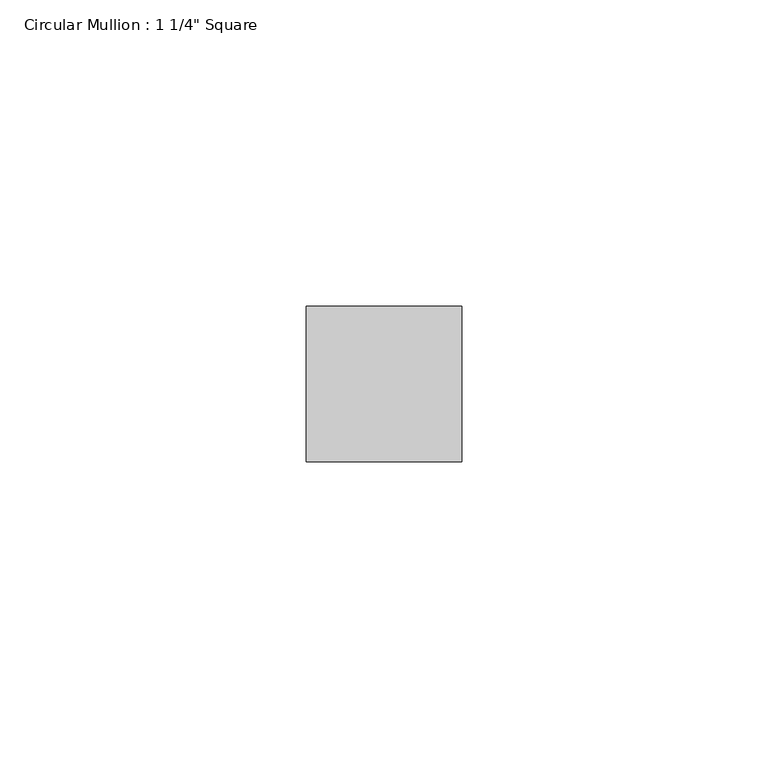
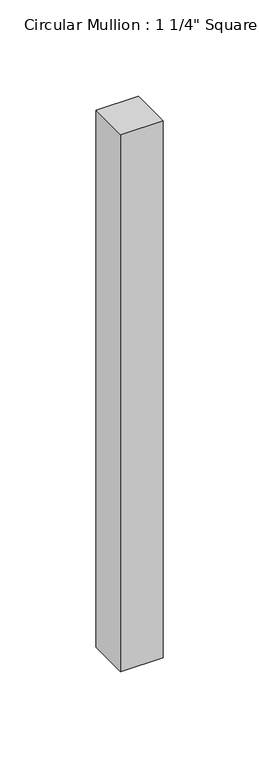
"""IFC4 building model written with IfcOpenShell, lengths in millimetres: member geometry."""

from ifc_helpers import new_model, si_unit, frame, origin, place, context, project, spatial, polyline, outline, extrude, source, transform, mapped, element, save


def member_a1b9a255(model_context):
    return source(origin(), model_context, "Body", "SweptSolid", [
        extrude(outline(polyline([(0.0, 12.7), (0.0, -12.7), (-25.4, -12.7), (-25.4, 12.7), (0.0, 12.7)])), frame((0.0, 0.0, -340.5123997), z_axis=(0.0, 0.0, 1.0), x_axis=(1.0, 0.0, 0.0)), (0.0, 0.0, 1.0), 340.5123997),
    ])


if __name__ == "__main__":
    model = new_model("IFC4")
    model_context = context("Model", 3, world=origin())
    ifc_project = project(units=[si_unit("LENGTHUNIT", "METRE", prefix="MILLI")], contexts=[model_context])
    site = spatial("IfcSite", under=ifc_project)
    building = spatial("IfcBuilding", under=site)
    placement = place(None, origin())
    member_shape = member_a1b9a255(model_context)
    element("IfcMember", 1, ObjectType="Circular Mullion : 1 1/4\" Square", at=placement, inside=building, context=model_context, shape_type="MappedRepresentation", body=[
        mapped(member_shape, transform((0.0, 0.0, 0.0), x_axis=(1.0, 0.0, 0.0), y_axis=(0.0, 1.0, 0.0), z_axis=(0.0, 0.0, 1.0))),
    ])
    save(model, "model.ifc")
